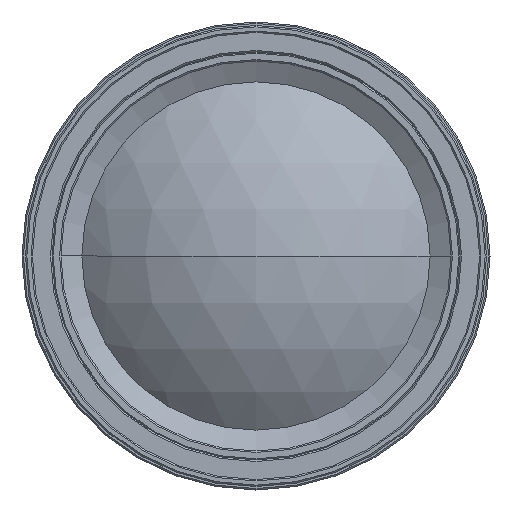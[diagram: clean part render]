
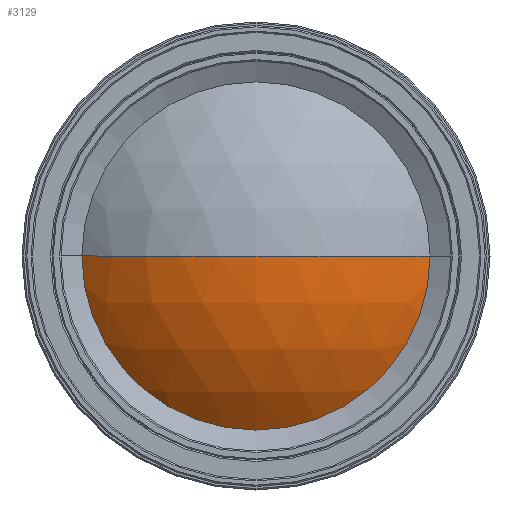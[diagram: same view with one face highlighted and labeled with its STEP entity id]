
A CAD part, left-side view. The second image highlights one B-rep face of the part: STEP entity #3129.
In plain terms, the highlighted spherical face has radius 37.8 mm.
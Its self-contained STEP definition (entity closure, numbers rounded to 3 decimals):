
#5 = ORIENTED_EDGE ( 'NONE', *, *, #930, .F. ) ;
#43 = CARTESIAN_POINT ( 'NONE',  ( -61.835, 0., 0. ) ) ;
#50 = DIRECTION ( 'NONE',  ( 1., 0., 0. ) ) ;
#73 = CARTESIAN_POINT ( 'NONE',  ( -33.483, 0., 0. ) ) ;
#215 = DIRECTION ( 'NONE',  ( 0., 0., -1. ) ) ;
#500 = EDGE_CURVE ( 'NONE', #3734, #3323, #3272, .T. ) ;
#604 = DIRECTION ( 'NONE',  ( 0., 0., -1. ) ) ;
#676 = CARTESIAN_POINT ( 'NONE',  ( -71.283, 0., 0. ) ) ;
#832 = AXIS2_PLACEMENT_3D ( 'NONE', #2330, #604, #2070 ) ;
#857 = DIRECTION ( 'NONE',  ( -1., 0., 0. ) ) ;
#930 = EDGE_CURVE ( 'NONE', #3729, #3323, #3142, .T. ) ;
#1168 = EDGE_LOOP ( 'NONE', ( #1748, #2691, #5 ) ) ;
#1276 = CARTESIAN_POINT ( 'NONE',  ( -61.835, 25., 0. ) ) ;
#1303 = EDGE_CURVE ( 'NONE', #3729, #3734, #3634, .T. ) ;
#1359 = DIRECTION ( 'NONE',  ( 0., 1., 0. ) ) ;
#1379 = SPHERICAL_SURFACE ( 'NONE', #3702, 37.8 ) ;
#1586 = CARTESIAN_POINT ( 'NONE',  ( -61.835, -25., 0. ) ) ;
#1706 = CARTESIAN_POINT ( 'NONE',  ( -33.483, 0., 0. ) ) ;
#1748 = ORIENTED_EDGE ( 'NONE', *, *, #1303, .T. ) ;
#1876 = AXIS2_PLACEMENT_3D ( 'NONE', #43, #857, #2092 ) ;
#2059 = DIRECTION ( 'NONE',  ( 0., 0., 1. ) ) ;
#2070 = DIRECTION ( 'NONE',  ( 0., 1., 0. ) ) ;
#2092 = DIRECTION ( 'NONE',  ( 0., -1., 0. ) ) ;
#2330 = CARTESIAN_POINT ( 'NONE',  ( -33.483, 0., 0. ) ) ;
#2691 = ORIENTED_EDGE ( 'NONE', *, *, #500, .T. ) ;
#2783 = AXIS2_PLACEMENT_3D ( 'NONE', #73, #2059, #50 ) ;
#2828 = FACE_OUTER_BOUND ( 'NONE', #1168, .T. ) ;
#3129 = ADVANCED_FACE ( 'NONE', ( #2828 ), #1379, .T. ) ;
#3142 = CIRCLE ( 'NONE', #2783, 37.8 ) ;
#3272 = CIRCLE ( 'NONE', #832, 37.8 ) ;
#3323 = VERTEX_POINT ( 'NONE', #676 ) ;
#3634 = CIRCLE ( 'NONE', #1876, 25. ) ;
#3702 = AXIS2_PLACEMENT_3D ( 'NONE', #1706, #215, #1359 ) ;
#3729 = VERTEX_POINT ( 'NONE', #1276 ) ;
#3734 = VERTEX_POINT ( 'NONE', #1586 ) ;
